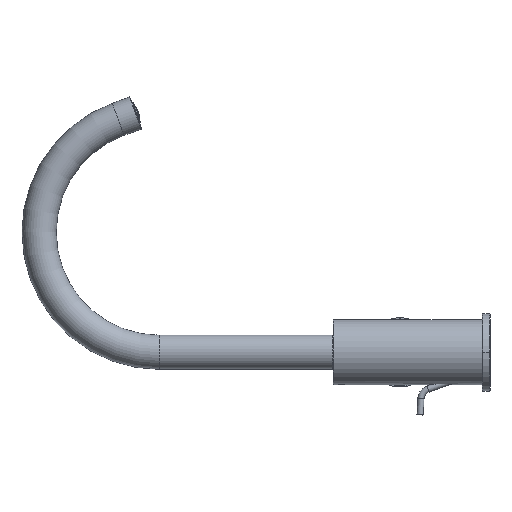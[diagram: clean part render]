
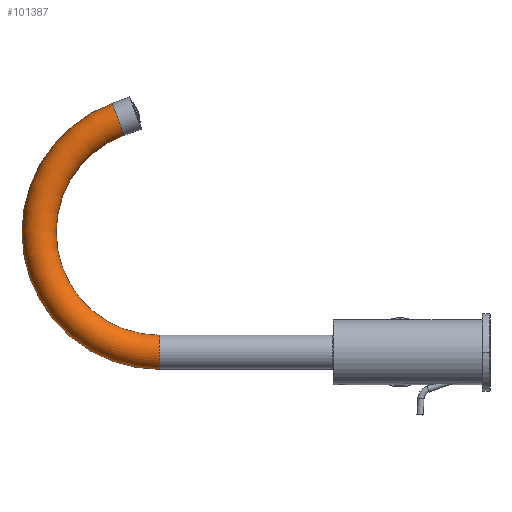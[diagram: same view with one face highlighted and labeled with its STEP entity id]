
A CAD part, left-side view. The second image highlights one B-rep face of the part: STEP entity #101387.
In plain terms, the highlighted toroidal (fillet/blend) face has major radius 77.278 mm and minor radius 11 mm.
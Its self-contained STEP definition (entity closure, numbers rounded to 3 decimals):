
#44648=CARTESIAN_POINT('',(0.,236.276,149.896));
#44649=DIRECTION('',(0.,-0.94,0.342));
#44650=DIRECTION('',(0.,0.342,0.94));
#44651=AXIS2_PLACEMENT_3D('',#44648,#44649,#44650);
#44676=CARTESIAN_POINT('',(0.,209.846,77.278));
#44677=DIRECTION('',(1.,0.,0.));
#44678=DIRECTION('',(0.,0.,-1.));
#44679=AXIS2_PLACEMENT_3D('',#44676,#44677,#44678);
#44729=CARTESIAN_POINT('',(0.,209.846,0.));
#44730=DIRECTION('',(0.,1.,0.));
#44731=DIRECTION('',(0.,0.,-1.));
#44732=AXIS2_PLACEMENT_3D('',#44729,#44730,#44731);
#44734=CARTESIAN_POINT('',(0.,209.846,77.278));
#44735=DIRECTION('',(1.,0.,0.));
#44736=DIRECTION('',(0.,0.,-1.));
#44737=AXIS2_PLACEMENT_3D('',#44734,#44735,#44736);
#85156=CARTESIAN_POINT('',(0.,209.846,-11.));
#85157=CARTESIAN_POINT('',(0.,209.846,11.));
#85158=VERTEX_POINT('',#85156);
#85159=VERTEX_POINT('',#85157);
#85164=CARTESIAN_POINT('',(0.,240.039,160.232));
#85165=CARTESIAN_POINT('',(0.,232.514,139.559));
#85166=VERTEX_POINT('',#85164);
#85167=VERTEX_POINT('',#85165);
#101376=CARTESIAN_POINT('',(0.,209.846,77.278));
#101377=DIRECTION('',(1.,0.,0.));
#101378=DIRECTION('',(0.,0.,1.));
#101379=AXIS2_PLACEMENT_3D('',#101376,#101377,#101378);
#101380=TOROIDAL_SURFACE('',#101379,77.278,11.);
#101381=ORIENTED_EDGE('',*,*,#101370,.F.);
#101382=ORIENTED_EDGE('',*,*,#101298,.T.);
#101383=ORIENTED_EDGE('',*,*,#101268,.T.);
#101384=ORIENTED_EDGE('',*,*,#101295,.F.);
#101385=EDGE_LOOP('',(#101381,#101382,#101383,#101384));
#101386=FACE_OUTER_BOUND('',#101385,.F.);
#101387=ADVANCED_FACE('',(#101386),#101380,.T.);
#44652=CIRCLE('',#44651,11.);
#44680=CIRCLE('',#44679,66.278);
#44733=CIRCLE('',#44732,11.);
#44738=CIRCLE('',#44737,88.278);
#101268=EDGE_CURVE('',#85166,#85167,#44652,.T.);
#101295=EDGE_CURVE('',#85159,#85167,#44680,.T.);
#101298=EDGE_CURVE('',#85158,#85166,#44738,.T.);
#101370=EDGE_CURVE('',#85158,#85159,#44733,.T.);
